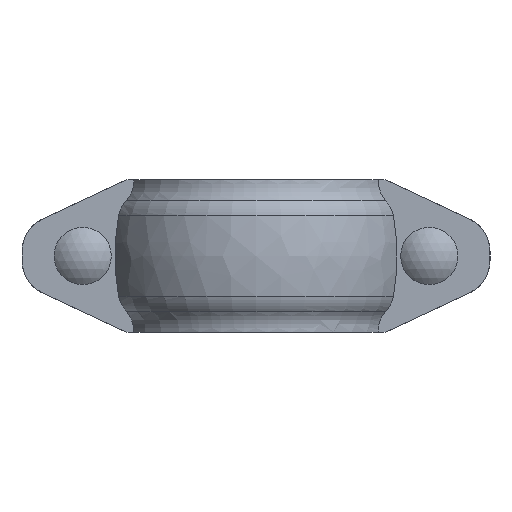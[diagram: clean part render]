
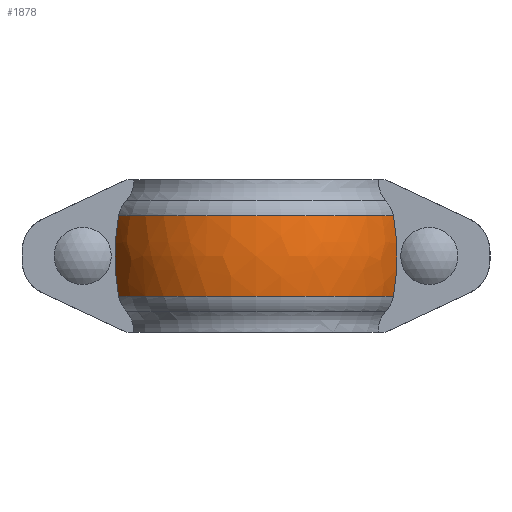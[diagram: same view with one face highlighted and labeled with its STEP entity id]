
A CAD part, front view. The second image highlights one B-rep face of the part: STEP entity #1878.
In plain terms, the highlighted free-form (B-spline) face has degree [2, 2] with [3, 5] control points.
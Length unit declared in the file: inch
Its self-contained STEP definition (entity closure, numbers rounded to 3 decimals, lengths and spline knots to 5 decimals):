
#19=(
BOUNDED_SURFACE()
B_SPLINE_SURFACE(2,2,((#3394,#3395,#3396,#3397,#3398),(#3399,#3400,#3401,
#3402,#3403),(#3404,#3405,#3406,#3407,#3408)),.UNSPECIFIED.,.F.,.F.,.F.)
B_SPLINE_SURFACE_WITH_KNOTS((3,3),(3,2,3),(-0.1767,0.1767),
(0.3898,1.5708,2.7518),.UNSPECIFIED.)
GEOMETRIC_REPRESENTATION_ITEM()
RATIONAL_B_SPLINE_SURFACE(((1.,0.831,1.,0.831,1.),
(0.984,0.818,0.984,0.818,
0.984),(1.,0.831,1.,0.831,1.)))
REPRESENTATION_ITEM('')
SURFACE()
);
#62=B_SPLINE_CURVE_WITH_KNOTS('',3,(#3114,#3115,#3116,#3117,#3118,#3119,
#3120,#3121,#3122,#3123),.UNSPECIFIED.,.F.,.F.,(4,2,2,2,4),(6.72119,
7.07172,7.97923,8.88675,9.23728),
 .UNSPECIFIED.);
#72=B_SPLINE_CURVE_WITH_KNOTS('',3,(#3249,#3250,#3251,#3252,#3253,#3254,
#3255,#3256,#3257,#3258),.UNSPECIFIED.,.F.,.F.,(4,2,2,2,4),(22.67965,
23.03019,23.9377,24.84521,25.19574),
 .UNSPECIFIED.);
#234=FACE_OUTER_BOUND('',#338,.T.);
#338=EDGE_LOOP('',(#1652,#1653,#1654,#1655));
#700=CIRCLE('',#2104,1.95329);
#701=CIRCLE('',#2105,1.95329);
#855=VERTEX_POINT('',#3102);
#856=VERTEX_POINT('',#3113);
#869=VERTEX_POINT('',#3237);
#870=VERTEX_POINT('',#3248);
#1096=EDGE_CURVE('',#856,#855,#62,.T.);
#1115=EDGE_CURVE('',#870,#869,#72,.T.);
#1141=EDGE_CURVE('',#869,#856,#700,.T.);
#1142=EDGE_CURVE('',#870,#855,#701,.T.);
#1652=ORIENTED_EDGE('',*,*,#1096,.T.);
#1653=ORIENTED_EDGE('',*,*,#1142,.F.);
#1654=ORIENTED_EDGE('',*,*,#1115,.T.);
#1655=ORIENTED_EDGE('',*,*,#1141,.T.);
#1878=ADVANCED_FACE('',(#234),#19,.F.);
#2104=AXIS2_PLACEMENT_3D('',#3393,#2604,#2605);
#2105=AXIS2_PLACEMENT_3D('',#3409,#2606,#2607);
#2604=DIRECTION('center_axis',(0.,0.,-1.));
#2605=DIRECTION('ref_axis',(1.,0.,0.));
#2606=DIRECTION('center_axis',(0.,0.,-1.));
#2607=DIRECTION('ref_axis',(1.,0.,0.));
#3102=CARTESIAN_POINT('',(1.79937,0.76,-0.52734));
#3113=CARTESIAN_POINT('',(1.79937,0.76,0.52734));
#3114=CARTESIAN_POINT('Ctrl Pts',(1.79937,0.76,0.52734));
#3115=CARTESIAN_POINT('Ctrl Pts',(1.80884,0.76,0.47851));
#3116=CARTESIAN_POINT('Ctrl Pts',(1.81709,0.76,0.42879));
#3117=CARTESIAN_POINT('Ctrl Pts',(1.8418,0.76,0.24965));
#3118=CARTESIAN_POINT('Ctrl Pts',(1.84997,0.76,0.1191));
#3119=CARTESIAN_POINT('Ctrl Pts',(1.84997,0.76,-0.1191));
#3120=CARTESIAN_POINT('Ctrl Pts',(1.8418,0.76,-0.24965));
#3121=CARTESIAN_POINT('Ctrl Pts',(1.81709,0.76,-0.42879));
#3122=CARTESIAN_POINT('Ctrl Pts',(1.80884,0.76,-0.47851));
#3123=CARTESIAN_POINT('Ctrl Pts',(1.79937,0.76,-0.52734));
#3237=CARTESIAN_POINT('',(-1.79937,0.76,0.52734));
#3248=CARTESIAN_POINT('',(-1.79937,0.76,-0.52734));
#3249=CARTESIAN_POINT('Ctrl Pts',(-1.79937,0.76,-0.52734));
#3250=CARTESIAN_POINT('Ctrl Pts',(-1.80884,0.76,-0.47851));
#3251=CARTESIAN_POINT('Ctrl Pts',(-1.81709,0.76,-0.42879));
#3252=CARTESIAN_POINT('Ctrl Pts',(-1.8418,0.76,-0.24965));
#3253=CARTESIAN_POINT('Ctrl Pts',(-1.84997,0.76,-0.1191));
#3254=CARTESIAN_POINT('Ctrl Pts',(-1.84997,0.76,0.1191));
#3255=CARTESIAN_POINT('Ctrl Pts',(-1.8418,0.76,0.24965));
#3256=CARTESIAN_POINT('Ctrl Pts',(-1.81709,0.76,0.42879));
#3257=CARTESIAN_POINT('Ctrl Pts',(-1.80884,0.76,0.47851));
#3258=CARTESIAN_POINT('Ctrl Pts',(-1.79937,0.76,0.52734));
#3393=CARTESIAN_POINT('Origin',(0.,0.,0.52734));
#3394=CARTESIAN_POINT('Ctrl Pts',(-1.80676,0.74225,0.52734));
#3395=CARTESIAN_POINT('Ctrl Pts',(-1.30925,1.95329,0.52734));
#3396=CARTESIAN_POINT('Ctrl Pts',(0.,1.95329,0.52734));
#3397=CARTESIAN_POINT('Ctrl Pts',(1.30925,1.95329,0.52734));
#3398=CARTESIAN_POINT('Ctrl Pts',(1.80676,0.74225,0.52734));
#3399=CARTESIAN_POINT('Ctrl Pts',(-1.89386,0.77803,0.));
#3400=CARTESIAN_POINT('Ctrl Pts',(-1.37237,2.04745,0.));
#3401=CARTESIAN_POINT('Ctrl Pts',(0.,2.04745,0.));
#3402=CARTESIAN_POINT('Ctrl Pts',(1.37237,2.04745,0.));
#3403=CARTESIAN_POINT('Ctrl Pts',(1.89386,0.77803,0.));
#3404=CARTESIAN_POINT('Ctrl Pts',(-1.80676,0.74225,-0.52734));
#3405=CARTESIAN_POINT('Ctrl Pts',(-1.30925,1.95329,-0.52734));
#3406=CARTESIAN_POINT('Ctrl Pts',(0.,1.95329,-0.52734));
#3407=CARTESIAN_POINT('Ctrl Pts',(1.30925,1.95329,-0.52734));
#3408=CARTESIAN_POINT('Ctrl Pts',(1.80676,0.74225,-0.52734));
#3409=CARTESIAN_POINT('Origin',(0.,0.,-0.52734));
